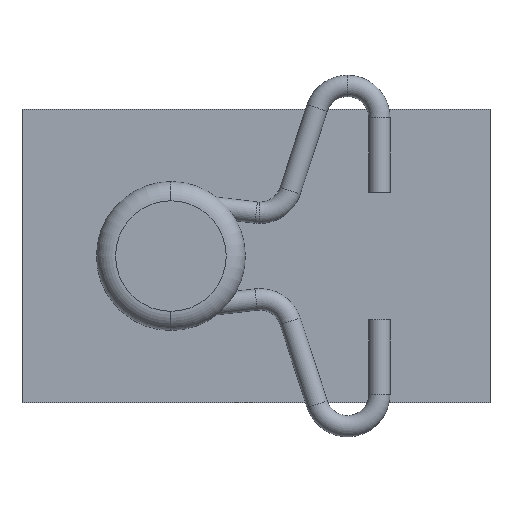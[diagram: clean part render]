
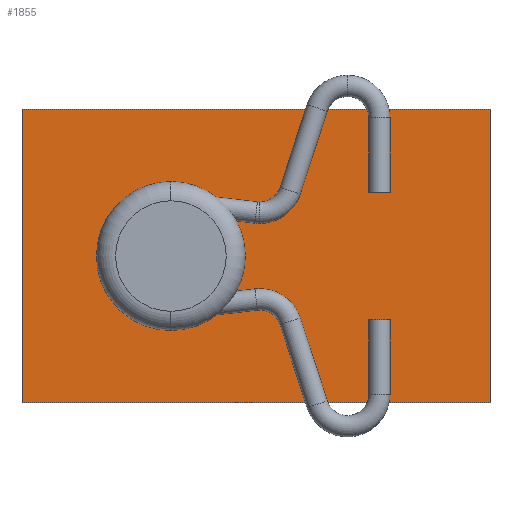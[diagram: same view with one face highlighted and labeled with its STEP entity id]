
A CAD part, front view. The second image highlights one B-rep face of the part: STEP entity #1855.
In plain terms, the highlighted planar face has unit normal (0, -1, 0).
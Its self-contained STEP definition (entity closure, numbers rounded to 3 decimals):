
#63 = FACE_OUTER_BOUND ( 'NONE', #463, .T. ) ;
#93 = DIRECTION ( 'NONE',  ( 1., 0., 0. ) ) ;
#123 = CARTESIAN_POINT ( 'NONE',  ( -22., -0.5, -6.9 ) ) ;
#233 = DIRECTION ( 'NONE',  ( 0., 1., 0. ) ) ;
#242 = DIRECTION ( 'NONE',  ( 0., 0., 1. ) ) ;
#246 = ORIENTED_EDGE ( 'NONE', *, *, #615, .T. ) ;
#264 = VERTEX_POINT ( 'NONE', #2185 ) ;
#313 = VECTOR ( 'NONE', #988, 1000. ) ;
#342 = CARTESIAN_POINT ( 'NONE',  ( -15., -0.5, -1.95 ) ) ;
#344 = EDGE_LOOP ( 'NONE', ( #246, #528 ) ) ;
#350 = ORIENTED_EDGE ( 'NONE', *, *, #1586, .F. ) ;
#364 = VECTOR ( 'NONE', #1072, 1000. ) ;
#370 = LINE ( 'NONE', #1068, #313 ) ;
#407 = AXIS2_PLACEMENT_3D ( 'NONE', #454, #233, #242 ) ;
#438 = CARTESIAN_POINT ( 'NONE',  ( -15., -0.5, 0. ) ) ;
#454 = CARTESIAN_POINT ( 'NONE',  ( 0., -0.5, 0. ) ) ;
#461 = CARTESIAN_POINT ( 'NONE',  ( 0., -0.5, 6.9 ) ) ;
#463 = EDGE_LOOP ( 'NONE', ( #350, #1484, #1697, #1905 ) ) ;
#502 = CARTESIAN_POINT ( 'NONE',  ( 0., -0.5, -6.9 ) ) ;
#528 = ORIENTED_EDGE ( 'NONE', *, *, #1458, .T. ) ;
#566 = LINE ( 'NONE', #461, #1007 ) ;
#600 = DIRECTION ( 'NONE',  ( 0., 0., 1. ) ) ;
#615 = EDGE_CURVE ( 'NONE', #1032, #770, #1918, .T. ) ;
#733 = DIRECTION ( 'NONE',  ( 0., 0., 1. ) ) ;
#742 = VERTEX_POINT ( 'NONE', #502 ) ;
#770 = VERTEX_POINT ( 'NONE', #342 ) ;
#793 = LINE ( 'NONE', #1240, #364 ) ;
#814 = PLANE ( 'NONE',  #407 ) ;
#950 = AXIS2_PLACEMENT_3D ( 'NONE', #438, #1781, #600 ) ;
#988 = DIRECTION ( 'NONE',  ( 0., 0., -1. ) ) ;
#1007 = VECTOR ( 'NONE', #93, 1000. ) ;
#1032 = VERTEX_POINT ( 'NONE', #1255 ) ;
#1042 = CARTESIAN_POINT ( 'NONE',  ( -15., -0.5, 0. ) ) ;
#1068 = CARTESIAN_POINT ( 'NONE',  ( 0., -0.5, 6.9 ) ) ;
#1069 = EDGE_CURVE ( 'NONE', #264, #1252, #566, .T. ) ;
#1072 = DIRECTION ( 'NONE',  ( 0., 0., 1. ) ) ;
#1230 = EDGE_CURVE ( 'NONE', #1252, #742, #370, .T. ) ;
#1240 = CARTESIAN_POINT ( 'NONE',  ( -22., -0.5, -6.9 ) ) ;
#1252 = VERTEX_POINT ( 'NONE', #1287 ) ;
#1255 = CARTESIAN_POINT ( 'NONE',  ( -15., -0.5, 1.95 ) ) ;
#1258 = CIRCLE ( 'NONE', #1899, 1.95 ) ;
#1287 = CARTESIAN_POINT ( 'NONE',  ( 0., -0.5, 6.9 ) ) ;
#1339 = VECTOR ( 'NONE', #1540, 1000. ) ;
#1363 = FACE_BOUND ( 'NONE', #344, .T. ) ;
#1458 = EDGE_CURVE ( 'NONE', #770, #1032, #1258, .T. ) ;
#1484 = ORIENTED_EDGE ( 'NONE', *, *, #1230, .F. ) ;
#1540 = DIRECTION ( 'NONE',  ( -1., 0., 0. ) ) ;
#1586 = EDGE_CURVE ( 'NONE', #742, #1729, #1779, .T. ) ;
#1697 = ORIENTED_EDGE ( 'NONE', *, *, #1069, .F. ) ;
#1720 = DIRECTION ( 'NONE',  ( 0., 1., 0. ) ) ;
#1729 = VERTEX_POINT ( 'NONE', #123 ) ;
#1779 = LINE ( 'NONE', #2052, #1339 ) ;
#1781 = DIRECTION ( 'NONE',  ( 0., 1., 0. ) ) ;
#1855 = ADVANCED_FACE ( 'NONE', ( #1363, #63 ), #814, .F. ) ;
#1899 = AXIS2_PLACEMENT_3D ( 'NONE', #1042, #1720, #733 ) ;
#1905 = ORIENTED_EDGE ( 'NONE', *, *, #1907, .F. ) ;
#1907 = EDGE_CURVE ( 'NONE', #1729, #264, #793, .T. ) ;
#1918 = CIRCLE ( 'NONE', #950, 1.95 ) ;
#2052 = CARTESIAN_POINT ( 'NONE',  ( 0., -0.5, -6.9 ) ) ;
#2185 = CARTESIAN_POINT ( 'NONE',  ( -22., -0.5, 6.9 ) ) ;
